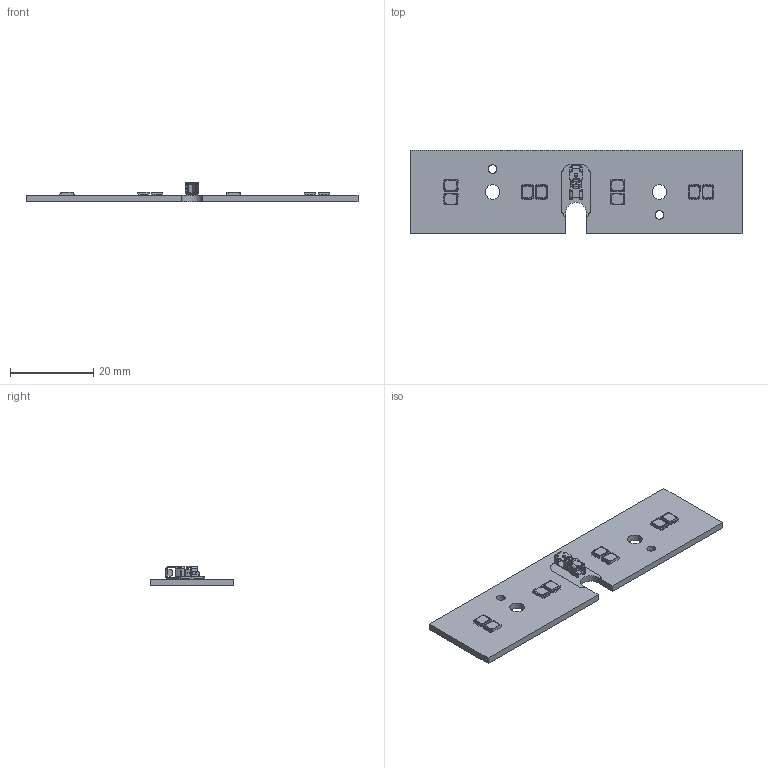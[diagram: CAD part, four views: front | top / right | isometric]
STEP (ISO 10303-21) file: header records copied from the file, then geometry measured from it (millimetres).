
FILE_DESCRIPTION(('STEP AP214'),'1');
FILE_NAME('PCB 2LED.stp','2025-05-19T12:10:29',(' '),(' '),'Spatial InterOp 3D',' ',' ');
FILE_SCHEMA(('AUTOMOTIVE_DESIGN { 1 0 10303 214 1 1 1 1 }'));
Length unit declared in the file: metre
Products named in the file (381): 1739048578; 1739048579; 1739048580; 1739048581; 1739048582; 1739048583; 1739048584; 1739048585; 1739048586; 1739048587; 1739048588; 1739048589; 1739048590; 1739048591; 1739048592; 1739048593; 1739048594; 1739048595; 1739048596; 1739048597; 1739048598; 1739048599; 1739048600; 1739048601; 1739048602; 1739048603; 1739048604; 1739048605; 1739048606; 1739048607; 1739048608; 1739048609; 1739048610; 1739048611; 1739048612; 1739048613; 1739048614; 1739048615; 1739048616; 1739048617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
Bounding box: 79.65 x 20 x 4.7 mm (x, y, z)
Volume: 2506.1 mm3; surface area: 3949.6 mm2
Topology: 25 solids, 380 shells, 1173 faces, 4264 edges, 3503 vertices
Faces by surface type: plane 812, cylinder 312, bspline 26, torus 16, cone 7
Full cylindrical faces by diameter (mm): 2.05 x2, 3.5 x2
Entity records: 62736 total; most frequent: CARTESIAN_POINT 15753, ORIENTED_EDGE 6595, DIRECTION 5131, EDGE_CURVE 4255, VERTEX_POINT 3498, B_SPLINE_CURVE_WITH_KNOTS 2192, LINE 1883, VECTOR 1883
